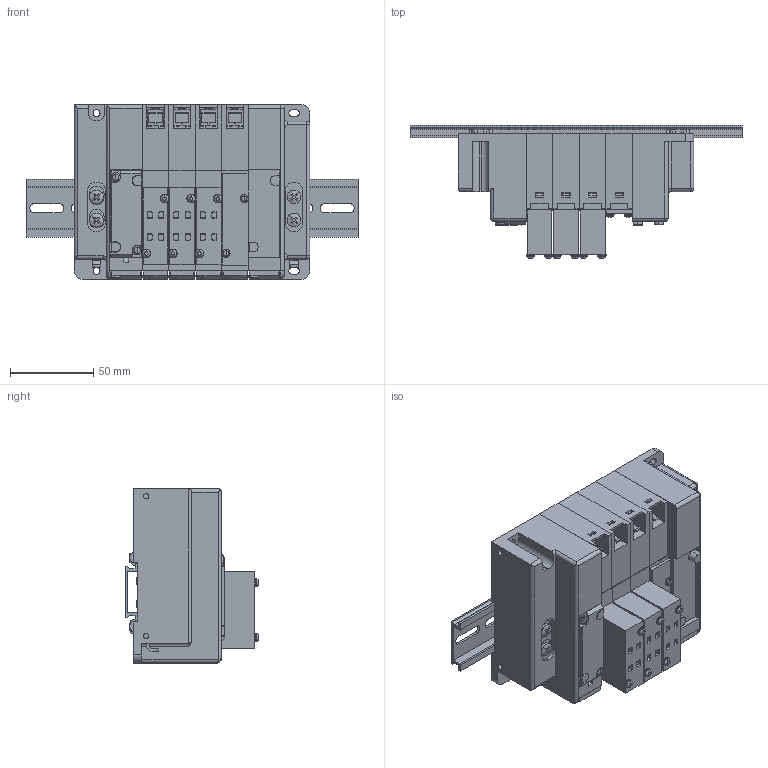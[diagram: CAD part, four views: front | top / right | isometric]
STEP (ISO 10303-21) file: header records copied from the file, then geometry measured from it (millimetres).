
FILE_DESCRIPTION( (''), '2;1');
FILE_NAME ('CVICAD02.4348.F15M4XP-JR-F10x-DR_21762.stp','2021-07-12T19:14:17',(''),(''),'spGate 12.6.6','','');
FILE_SCHEMA (('AUTOMOTIVE_DESIGN'));
Length unit declared in the file: millimetre
Products named in the file (22): Assembly; CVICAD02-prt0; CVICAD02-prt1; CVICAD02-prt2; CVICAD02-prt3; CVICAD02-prt4; CVICAD02-prt5; CVICAD02-prt6; CVICAD02-asm1; CVICAD02-asm2; CVICAD02-prt15; CVICAD02-asm3; CVICAD02-prt7; CVICAD02-prt8; CVICAD02-prt9; CVICAD02-prt10; CVICAD02-prt11; CVICAD02-prt12; CVICAD02-prt13; CVICAD02-prt14; CVICAD02-prt16; CVICAD02-prt17
Assembly tree (36 placements, depth 3):
  Assembly
    CVICAD02-prt0  x4
    CVICAD02-prt1  x3
    CVICAD02-prt2
    CVICAD02-prt3  x4
    CVICAD02-prt4
    CVICAD02-prt5
    CVICAD02-prt6
    CVICAD02-asm1
      CVICAD02-prt7
      CVICAD02-prt8
      CVICAD02-prt9
      CVICAD02-prt10
      CVICAD02-prt11
      CVICAD02-prt12
      CVICAD02-prt13
    CVICAD02-asm2  x2
      CVICAD02-prt7
      CVICAD02-prt8
      CVICAD02-prt9
      CVICAD02-prt11
      CVICAD02-prt14
      CVICAD02-prt12
      CVICAD02-prt13
    CVICAD02-prt15
    CVICAD02-asm3
      CVICAD02-prt16
      CVICAD02-prt17
Bounding box: 200 x 80.3 x 105 mm (x, y, z)
Volume: 693170 mm3; surface area: 167190.2 mm2
Topology: 18 solids, 18 shells, 2280 faces, 6095 edges, 3989 vertices
Faces by surface type: plane 1664, cylinder 521, bspline 68, sphere 27
Entity records: 60867 total; most frequent: CARTESIAN_POINT 7174, ORIENTED_EDGE 6118, DIRECTION 5868, COLOUR_RGB 4208, PRESENTATION_STYLE_ASSIGNMENT 4208, STYLED_ITEM 4208, EDGE_CURVE 3059, DRAUGHTING_PRE_DEFINED_CURVE_FONT 3059
